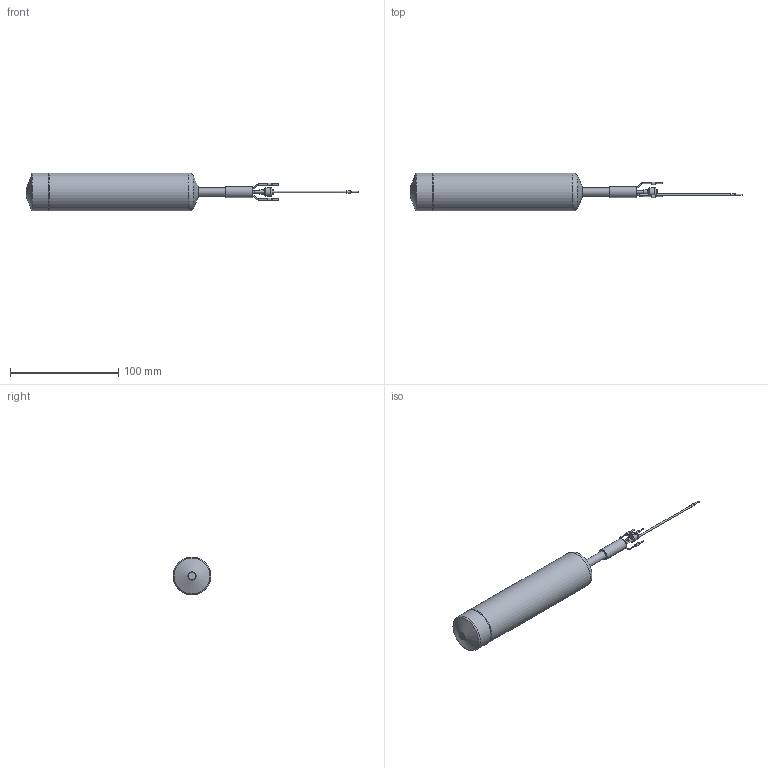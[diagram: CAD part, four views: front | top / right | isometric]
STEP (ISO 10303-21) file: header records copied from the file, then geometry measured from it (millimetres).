
FILE_DESCRIPTION(/* description */ (''),/* implementation_level */ '2;1');
FILE_NAME(/* name */ 'C:\Users\cz1166\Documents\STEP\LMK 809.stp',/* time_stamp */ '2019-12-12T07:18:44+01:00',/* author */ ('cz1166'),/* organization */ (''),/* preprocessor_version */ 'ST-DEVELOPER v16.5',/* originating_system */ 'Autodesk Inventor 2017',/* authorisation */ '');
FILE_SCHEMA (('AUTOMOTIVE_DESIGN { 1 0 10303 214 3 1 1 }'));
Length unit declared in the file: millimetre
Products named in the file (1): LMK 809
Bounding box: 306.2 x 35 x 35 mm (x, y, z)
Volume: 150400.4 mm3; surface area: 21413.4 mm2
Topology: 1 solids, 1 shells, 62 faces, 125 edges, 77 vertices
Faces by surface type: cylinder 26, plane 16, torus 11, cone 9
Full cylindrical faces by diameter (mm): 1 x6, 1.1 x4, 1.45 x2, 2.1 x1, 2.2 x4, 2.4 x1, 7.4 x1, 7.536 x1, 7.6 x1, 10.2 x1, 35 x2
Entity records: 1577 total; most frequent: CARTESIAN_POINT 301, DIRECTION 254, ORIENTED_EDGE 152, AXIS2_PLACEMENT_3D 125, EDGE_LOOP 116, EDGE_CURVE 76, VERTEX_POINT 68, FACE_OUTER_BOUND 62
